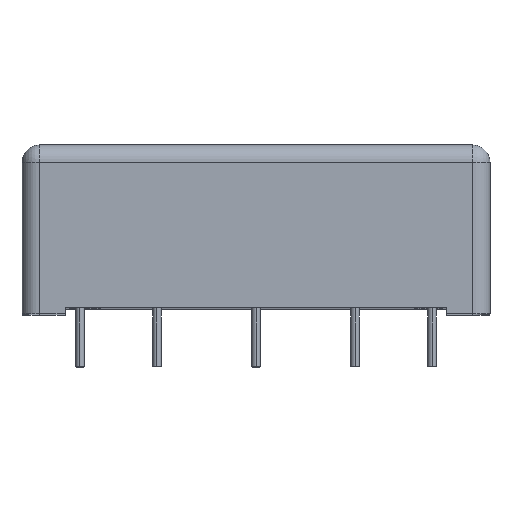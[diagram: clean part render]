
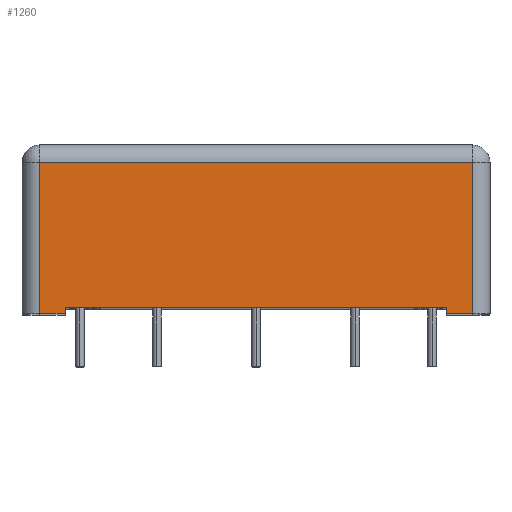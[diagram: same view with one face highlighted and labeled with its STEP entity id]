
A CAD part, top view. The second image highlights one B-rep face of the part: STEP entity #1260.
In plain terms, the highlighted planar face has unit normal (0, 0, 1).
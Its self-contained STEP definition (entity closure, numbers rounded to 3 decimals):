
#38 = DIRECTION ( 'NONE',  ( -1., 0., 0. ) ) ;
#71 = PLANE ( 'NONE',  #258 ) ;
#258 = AXIS2_PLACEMENT_3D ( 'NONE', #2645, #5538, #38 ) ;
#276 = ORIENTED_EDGE ( 'NONE', *, *, #6234, .T. ) ;
#313 = LINE ( 'NONE', #6226, #771 ) ;
#371 = EDGE_CURVE ( 'NONE', #1732, #496, #5020, .T. ) ;
#496 = VERTEX_POINT ( 'NONE', #5168 ) ;
#555 = FACE_OUTER_BOUND ( 'NONE', #2307, .T. ) ;
#564 = EDGE_CURVE ( 'NONE', #1732, #3540, #3749, .T. ) ;
#685 = ORIENTED_EDGE ( 'NONE', *, *, #564, .T. ) ;
#693 = EDGE_CURVE ( 'NONE', #1895, #5702, #5594, .T. ) ;
#771 = VECTOR ( 'NONE', #1798, 1000. ) ;
#907 = LINE ( 'NONE', #6291, #1293 ) ;
#994 = CARTESIAN_POINT ( 'NONE',  ( -22., 0., 37. ) ) ;
#1260 = ADVANCED_FACE ( 'NONE', ( #555 ), #71, .F. ) ;
#1293 = VECTOR ( 'NONE', #2772, 1000. ) ;
#1295 = CARTESIAN_POINT ( 'NONE',  ( 22., -0.7, 37. ) ) ;
#1309 = ORIENTED_EDGE ( 'NONE', *, *, #371, .F. ) ;
#1340 = CARTESIAN_POINT ( 'NONE',  ( 25., 16.8, 37. ) ) ;
#1472 = VERTEX_POINT ( 'NONE', #3333 ) ;
#1600 = DIRECTION ( 'NONE',  ( -1., 0., 0. ) ) ;
#1668 = CARTESIAN_POINT ( 'NONE',  ( -22., -0.7, 37. ) ) ;
#1732 = VERTEX_POINT ( 'NONE', #5896 ) ;
#1798 = DIRECTION ( 'NONE',  ( 1., 0., 0. ) ) ;
#1895 = VERTEX_POINT ( 'NONE', #4751 ) ;
#2114 = VECTOR ( 'NONE', #6171, 1000. ) ;
#2182 = CARTESIAN_POINT ( 'NONE',  ( 22., -0.7, 37. ) ) ;
#2229 = LINE ( 'NONE', #1295, #2114 ) ;
#2256 = DIRECTION ( 'NONE',  ( 0., 1., 0. ) ) ;
#2307 = EDGE_LOOP ( 'NONE', ( #4476, #276, #5397, #1309, #685, #4104, #2807, #4358 ) ) ;
#2645 = CARTESIAN_POINT ( 'NONE',  ( -27., 18.8, 37. ) ) ;
#2772 = DIRECTION ( 'NONE',  ( 0., -1., 0. ) ) ;
#2807 = ORIENTED_EDGE ( 'NONE', *, *, #5362, .F. ) ;
#2861 = VERTEX_POINT ( 'NONE', #2182 ) ;
#2900 = EDGE_CURVE ( 'NONE', #1895, #2861, #6263, .T. ) ;
#3250 = VECTOR ( 'NONE', #6229, 1000. ) ;
#3333 = CARTESIAN_POINT ( 'NONE',  ( 22., 0., 37. ) ) ;
#3510 = LINE ( 'NONE', #5089, #5335 ) ;
#3540 = VERTEX_POINT ( 'NONE', #994 ) ;
#3749 = LINE ( 'NONE', #4202, #5180 ) ;
#4102 = DIRECTION ( 'NONE',  ( 0., 1., 0. ) ) ;
#4104 = ORIENTED_EDGE ( 'NONE', *, *, #5264, .T. ) ;
#4202 = CARTESIAN_POINT ( 'NONE',  ( -22., -0.7, 37. ) ) ;
#4263 = CARTESIAN_POINT ( 'NONE',  ( 25., -0.7, 37. ) ) ;
#4358 = ORIENTED_EDGE ( 'NONE', *, *, #2900, .F. ) ;
#4476 = ORIENTED_EDGE ( 'NONE', *, *, #693, .T. ) ;
#4500 = DIRECTION ( 'NONE',  ( -1., 0., 0. ) ) ;
#4657 = VECTOR ( 'NONE', #4102, 1000. ) ;
#4751 = CARTESIAN_POINT ( 'NONE',  ( 25., -0.7, 37. ) ) ;
#5020 = LINE ( 'NONE', #1668, #5496 ) ;
#5089 = CARTESIAN_POINT ( 'NONE',  ( -25., 16.8, 37. ) ) ;
#5153 = EDGE_CURVE ( 'NONE', #6278, #496, #907, .T. ) ;
#5168 = CARTESIAN_POINT ( 'NONE',  ( -25., -0.7, 37. ) ) ;
#5180 = VECTOR ( 'NONE', #2256, 1000. ) ;
#5264 = EDGE_CURVE ( 'NONE', #3540, #1472, #313, .T. ) ;
#5335 = VECTOR ( 'NONE', #1600, 1000. ) ;
#5362 = EDGE_CURVE ( 'NONE', #2861, #1472, #2229, .T. ) ;
#5397 = ORIENTED_EDGE ( 'NONE', *, *, #5153, .T. ) ;
#5496 = VECTOR ( 'NONE', #4500, 1000. ) ;
#5538 = DIRECTION ( 'NONE',  ( 0., 0., -1. ) ) ;
#5548 = CARTESIAN_POINT ( 'NONE',  ( -25., 16.8, 37. ) ) ;
#5594 = LINE ( 'NONE', #6016, #4657 ) ;
#5702 = VERTEX_POINT ( 'NONE', #1340 ) ;
#5896 = CARTESIAN_POINT ( 'NONE',  ( -22., -0.7, 37. ) ) ;
#6016 = CARTESIAN_POINT ( 'NONE',  ( 25., 18.8, 37. ) ) ;
#6171 = DIRECTION ( 'NONE',  ( 0., 1., 0. ) ) ;
#6226 = CARTESIAN_POINT ( 'NONE',  ( -27., 0., 37. ) ) ;
#6229 = DIRECTION ( 'NONE',  ( -1., 0., 0. ) ) ;
#6234 = EDGE_CURVE ( 'NONE', #5702, #6278, #3510, .T. ) ;
#6263 = LINE ( 'NONE', #4263, #3250 ) ;
#6278 = VERTEX_POINT ( 'NONE', #5548 ) ;
#6291 = CARTESIAN_POINT ( 'NONE',  ( -25., 18.8, 37. ) ) ;
